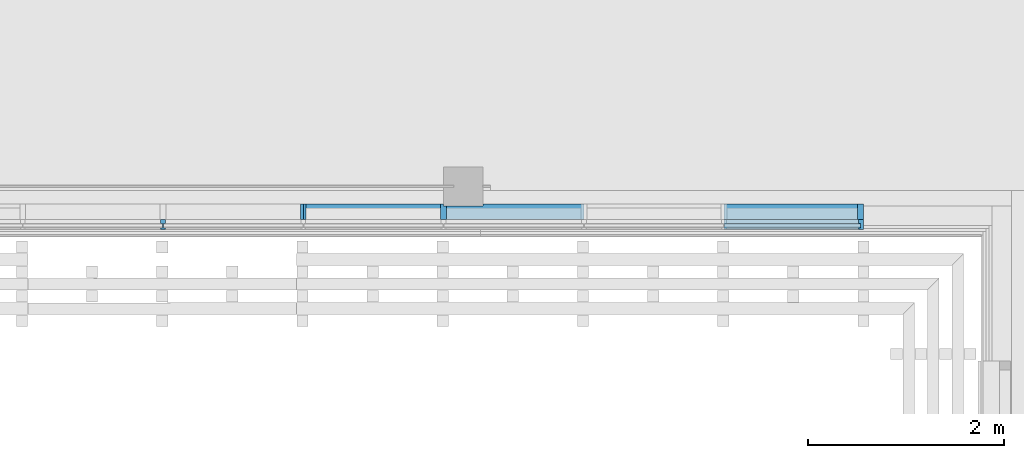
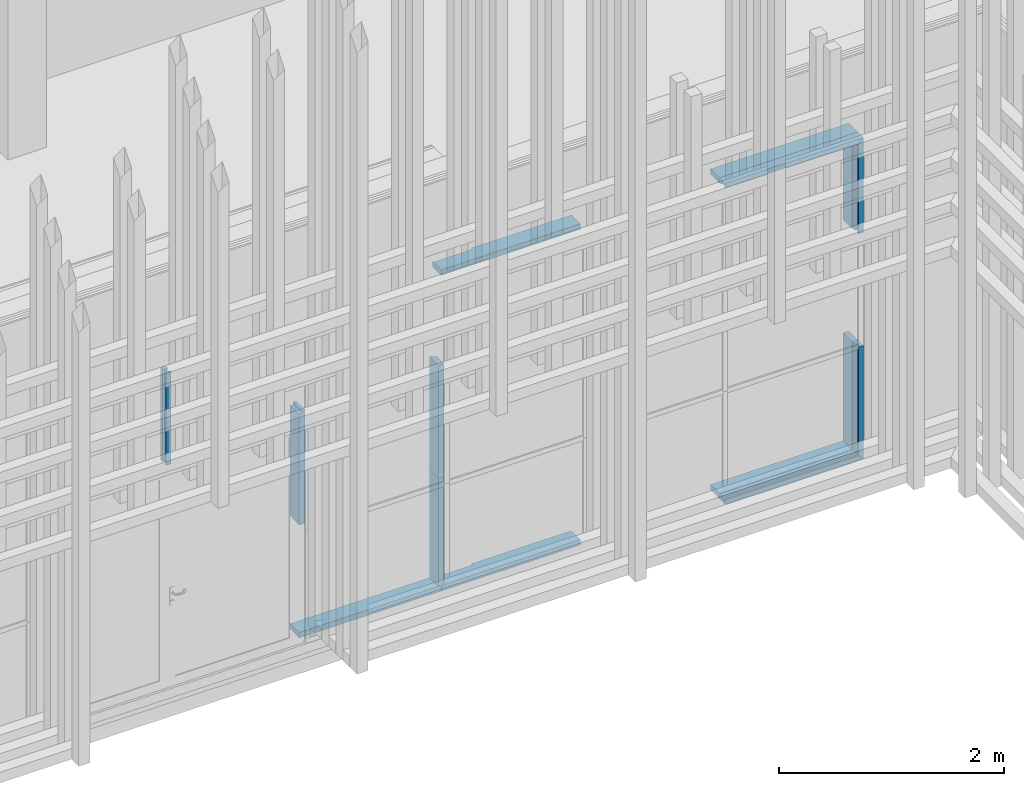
# One storey, part 80 of 260: 15 members, 2 elements without a shape of their own.
"""IFC2X3 building model written with IfcOpenShell, lengths in millimetres."""

from ifc_helpers import new_model, entity, si_unit, converted_unit, derived_unit, money_unit, direction, frame, origin_with_axes, place, context, subcontext, project, spatial, faceted_brep, material, type_object, element, aggregate, save


model = new_model("IFC2X3")

# Units and contexts
model_context = context("Model", 3, precision=0.01, world=origin_with_axes(), true_north=direction((0.0, 1.0)))
body_context = subcontext(model_context, "Body", "Model", "MODEL_VIEW")
ifc_project = project(units=[si_unit("LENGTHUNIT", "METRE", prefix="MILLI"), si_unit("AREAUNIT", "SQUARE_METRE"), si_unit("VOLUMEUNIT", "CUBIC_METRE"), converted_unit("PLANEANGLEUNIT", "DEGREE", entity("IfcPlaneAngleMeasure", 0.0174532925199), si_unit("PLANEANGLEUNIT", "RADIAN"), dimensions=[0, 0, 0, 0, 0, 0, 0]), money_unit("EUR"), converted_unit("TIMEUNIT", "Year", entity("IfcTimeMeasure", 31556926.0), si_unit("TIMEUNIT", "SECOND"), dimensions=[0, 0, 1, 0, 0, 0, 0]), si_unit("MASSUNIT", "GRAM", prefix="KILO"), si_unit("THERMODYNAMICTEMPERATUREUNIT", "DEGREE_CELSIUS"), si_unit("LUMINOUSINTENSITYUNIT", "LUMEN"), si_unit("ENERGYUNIT", "JOULE", prefix="MEGA"), derived_unit("THERMALCONDUCTANCEUNIT", [(si_unit("POWERUNIT", "WATT"), 1), (si_unit("LENGTHUNIT", "METRE"), -1), (si_unit("THERMODYNAMICTEMPERATUREUNIT", "KELVIN"), -1)]), derived_unit("SPECIFICHEATCAPACITYUNIT", [(si_unit("ENERGYUNIT", "JOULE"), 1), (si_unit("MASSUNIT", "GRAM", prefix="KILO"), -1), (si_unit("THERMODYNAMICTEMPERATUREUNIT", "KELVIN"), -1)]), derived_unit("MASSDENSITYUNIT", [(si_unit("MASSUNIT", "GRAM", prefix="KILO"), 1), (si_unit("VOLUMEUNIT", "CUBIC_METRE"), -1)])], contexts=[model_context])

# Site, building, storey
site_placement = place(None, origin_with_axes())
site = spatial("IfcSite", under=ifc_project, at=site_placement, Name="Kolde pst 67a", CompositionType="ELEMENT")
building_placement = place(site_placement, origin_with_axes())
building = spatial("IfcBuilding", under=site, at=building_placement, Name="Riigigümnaasium", CompositionType="ELEMENT")
storey_placement = place(building_placement, origin_with_axes())
storey = spatial("IfcBuildingStorey", under=building, at=storey_placement, Name="1. korrus", CompositionType="ELEMENT", Elevation=0.0)

# Curtain wall, members
curtain_wall_type = type_object("IfcCurtainWallType", Name="Curtain Wall Type", PredefinedType="NOTDEFINED")
curtain_wall_1_placement = place(storey_placement, frame((20393.1746439, 47839.7660528, -0.000116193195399), z_axis=(0.0, 0.0, 1.0), x_axis=(1.0, 0.0, 0.0)))
curtain_wall_1 = element("IfcCurtainWall", 1, at=curtain_wall_1_placement, inside=storey, type_object=curtain_wall_type, Name="KLAASFASSAAD")
ifc_material_1 = material(Name="_METALL - alumiinium")
member_type_1 = type_object("IfcMemberType", Name="Boundary Frame 50 x 100", PredefinedType="MEMBER")
member_1_placement = place(curtain_wall_1_placement, frame((2135.44646826, 0.0, 0.0), z_axis=(-1.0, 0.0, 0.0), x_axis=(0.0, 0.0, 1.0)))
member_1 = element("IfcMember", 2, at=member_1_placement, type_object=member_type_1, material=ifc_material_1, Name="RF RAAM SERV-701", ObjectType="MEMBER", context=body_context, shape_type="Brep", body=[
    faceted_brep([(30.0, 24.0, 1420.44646826), (50.0, 24.0, 1420.44646826), (50.0, 60.0, 1420.44646826), (0.0, 60.0, 1420.44646826), (0.0, -40.0, 1420.44646826), (50.0, -40.0, 1420.44646826), (50.0, -24.0, 1420.44646826), (30.0, -24.0, 1420.44646826), (30.0, 24.0, 30.0), (50.0, 24.0, 50.0), (50.0, 60.0, 50.0), (0.0, 60.0, 0.0), (0.0, -40.0, 0.0), (50.0, -40.0, 50.0), (50.0, -24.0, 50.0), (30.0, -24.0, 30.0)], [[[0, 1, 2, 3, 4, 5, 6, 7]], [[0, 8, 9, 1]], [[9, 10, 2, 1]], [[2, 10, 11, 3]], [[3, 11, 12, 4]], [[4, 12, 13, 5]], [[6, 5, 13, 14]], [[14, 15, 7, 6]], [[7, 15, 8, 0]], [[8, 15, 14, 13, 12, 11, 10, 9]]]),
])
member_2_placement = place(curtain_wall_1_placement, frame((2135.44646826, 0.0, 1230.00011619), z_axis=(0.0, 0.0, -1.0), x_axis=(-1.0, 0.0, 0.0)))
member_2 = element("IfcMember", 3, at=member_2_placement, type_object=member_type_1, material=ifc_material_1, Name="RF RAAM SERV-722", ObjectType="MEMBER", context=body_context, shape_type="Brep", body=[
    faceted_brep([(30.0, 24.0, 1200.00011619), (50.0, 24.0, 1180.00011619), (50.0, 60.0, 1180.00011619), (0.0, 60.0, 1230.00011619), (0.0, -40.0, 1230.00011619), (50.0, -40.0, 1180.00011619), (50.0, -24.0, 1180.00011619), (30.0, -24.0, 1200.00011619), (30.0, 24.0, 0.0), (50.0, 24.0, 0.0), (50.0, 60.0, 0.0), (0.0, 60.0, 0.0), (0.0, -40.0, 0.0), (50.0, -40.0, 0.0), (50.0, -24.0, 0.0), (30.0, -24.0, 0.0)], [[[0, 1, 2, 3, 4, 5, 6, 7]], [[0, 8, 9, 1]], [[9, 10, 2, 1]], [[10, 11, 3, 2]], [[11, 12, 4, 3]], [[12, 13, 5, 4]], [[6, 5, 13, 14]], [[14, 15, 7, 6]], [[7, 15, 8, 0]], [[8, 15, 14, 13, 12, 11, 10, 9]]]),
])
member_3_placement = place(curtain_wall_1_placement, frame((2135.44655807, 0.0, 3490.00014349), z_axis=(-8.71956223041e-08, 0.0, -1.0), x_axis=(-1.0, 0.0, 8.71956223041e-08)))
member_3 = element("IfcMember", 4, at=member_3_placement, type_object=member_type_1, material=ifc_material_1, Name="RF RAAM SERV-720", ObjectType="MEMBER", context=body_context, shape_type="Brep", body=[
    faceted_brep([(29.9999101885, 24.0, 1030.00003209), (49.9999101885, 24.0, 1030.00003384), (49.9999101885, 60.0, 1030.00003384), (-8.98114933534e-05, 60.0, 1030.00002948), (-8.98114933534e-05, -40.0, 1030.00002948), (49.9999101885, -40.0, 1030.00003384), (49.9999101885, -24.0, 1030.00003384), (29.9999101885, -24.0, 1030.00003209), (29.9999973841, 24.0, 30.0000052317), (49.9999956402, 24.0, 50.0000087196), (49.9999956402, 60.0, 50.0000087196), (0.0, 60.0, 0.0), (0.0, -40.0, 0.0), (49.9999956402, -40.0, 50.0000087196), (49.9999956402, -24.0, 50.0000087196), (29.9999973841, -24.0, 30.0000052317)], [[[0, 1, 2, 3, 4, 5, 6, 7]], [[0, 8, 9, 1]], [[9, 10, 2, 1]], [[2, 10, 11, 3]], [[3, 11, 12, 4]], [[4, 12, 13, 5]], [[6, 5, 13, 14]], [[14, 15, 7, 6]], [[7, 15, 8, 0]], [[8, 15, 14, 13, 12, 11, 10, 9]]]),
])
member_4_placement = place(curtain_wall_1_placement, frame((715.0, 0.0, 3490.00014349), z_axis=(1.0, 0.0, 0.0), x_axis=(0.0, 0.0, -1.0)))
member_4 = element("IfcMember", 5, at=member_4_placement, type_object=member_type_1, material=ifc_material_1, Name="RF RAAM SERV-719", ObjectType="MEMBER", context=body_context, shape_type="Brep", body=[
    faceted_brep([(30.0, 24.0, 1390.44655545), (50.0, 24.0, 1370.44655371), (50.0, 60.0, 1370.44655371), (0.0, 60.0, 1420.44655807), (0.0, -40.0, 1420.44655807), (50.0, -40.0, 1370.44655371), (50.0, -24.0, 1370.44655371), (30.0, -24.0, 1390.44655545), (30.0, 24.0, -1.18322063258e-06), (50.0, 24.0, -1.18322063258e-06), (50.0, 60.0, -1.18322063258e-06), (0.0, 60.0, -1.18322063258e-06), (0.0, -40.0, -1.18322063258e-06), (50.0, -40.0, -1.18322063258e-06), (50.0, -24.0, -1.18322063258e-06), (30.0, -24.0, -1.18322063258e-06)], [[[0, 1, 2, 3, 4, 5, 6, 7]], [[0, 8, 9, 1]], [[9, 10, 2, 1]], [[10, 11, 3, 2]], [[11, 12, 4, 3]], [[12, 13, 5, 4]], [[6, 5, 13, 14]], [[14, 15, 7, 6]], [[7, 15, 8, 0]], [[8, 15, 14, 13, 12, 11, 10, 9]]]),
])
member_type_2 = type_object("IfcMemberType", Name="Mullion Frame 50 x 100", PredefinedType="MEMBER")
member_5_placement = place(curtain_wall_1_placement, frame((-5005.0, 0.0, 2460.00011619), z_axis=(0.0, 0.0, 1.0), x_axis=(1.0, 0.0, 0.0)))
member_5 = element("IfcMember", 6, at=member_5_placement, type_object=member_type_2, material=ifc_material_1, Name="RF RAAM VERT-474", ObjectType="MEMBER", context=body_context, shape_type="Brep", body=[
    faceted_brep([(-5.0, 24.0, 980.000094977), (-5.0, -24.0, 980.000094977), (-25.0, -24.0, 980.000094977), (-25.0, -40.0, 980.000094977), (25.0, -40.0, 980.000094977), (25.0, -24.0, 980.000094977), (5.0, -24.0, 980.000094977), (5.0, 24.0, 980.000094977), (25.0, 24.0, 980.000094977), (25.0, 60.0, 980.000094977), (-25.0, 60.0, 980.000094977), (-25.0, 24.0, 980.000094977), (-5.0, 24.0, -25.0), (-5.0, -24.0, -25.0), (-25.0, -24.0, -25.0), (-25.0, -40.0, -25.0), (25.0, -40.0, -25.0), (25.0, -24.0, -25.0), (5.0, -24.0, -25.0), (5.0, 24.0, -25.0), (25.0, 24.0, -25.0), (25.0, 60.0, -25.0), (-25.0, 60.0, -25.0), (-25.0, 24.0, -25.0)], [[[0, 1, 2, 3, 4, 5, 6, 7, 8, 9, 10, 11]], [[0, 12, 13, 1]], [[1, 13, 14, 2]], [[14, 15, 3, 2]], [[3, 15, 16, 4]], [[17, 5, 4, 16]], [[5, 17, 18, 6]], [[7, 6, 18, 19]], [[8, 7, 19, 20]], [[8, 20, 21, 9]], [[9, 21, 22, 10]], [[11, 10, 22, 23]], [[11, 23, 12, 0]], [[13, 12, 23, 22, 21, 20, 19, 18, 17, 16, 15, 14]]]),
])
aggregate(curtain_wall_1, [member_1, member_2, member_3, member_4, member_5])

curtain_wall_2_placement = place(storey_placement, frame((20393.1747334, 47899.7660528, -0.000116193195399), z_axis=(0.0, 0.0, 1.0), x_axis=(1.0, 0.0, 0.0)))
curtain_wall_2 = element("IfcCurtainWall", 7, at=curtain_wall_2_placement, inside=storey, type_object=curtain_wall_type, Name="Klaasfassaadi puitkarkass")
ifc_material_2 = material(Name="_KANDETARIND - liimpuit vastavalt EK osale")
member_type_3 = type_object("IfcMemberType", Name="Boundary Frame 60 x 160", PredefinedType="MEMBER")
member_6_placement = place(curtain_wall_2_placement, frame((-2145.0, 0.0, 0.0), z_axis=(-1.0, 0.0, 0.0), x_axis=(0.0, 0.0, 1.0)))
member_6 = element("IfcMember", 8, at=member_6_placement, type_object=member_type_3, material=ifc_material_2, Name="RF RAAM SERV-617", ObjectType="MEMBER", context=body_context, shape_type="Brep", body=[
    faceted_brep([(60.0, 160.0, 0.0), (60.0, 160.0, 1460.0), (60.0, 0.0, 1460.0), (60.0, 0.0, 0.0), (0.0, 160.0, 0.0), (0.0, 160.0, 1460.0), (0.0, 0.0, 1460.0), (0.0, 0.0, 0.0)], [[[0, 1, 2, 3]], [[4, 5, 1, 0]], [[1, 5, 6, 2]], [[3, 2, 6, 7]], [[0, 3, 7, 4]], [[7, 6, 5, 4]]]),
])
member_7_placement = place(curtain_wall_2_placement, frame((2135.44646826, 0.0, 0.0), z_axis=(-1.0, 0.0, 0.0), x_axis=(0.0, 0.0, 1.0)))
member_7 = element("IfcMember", 9, at=member_7_placement, type_object=member_type_3, material=ifc_material_2, Name="RF RAAM SERV-524", ObjectType="MEMBER", context=body_context, shape_type="Brep", body=[
    faceted_brep([(60.0, 0.0, 60.0), (60.0, 160.0, 60.0), (60.0, 160.0, 1420.44646826), (60.0, 0.0, 1420.44646826), (0.0, 0.0, 0.0), (0.0, 160.0, 0.0), (0.0, 160.0, 1420.44646826), (0.0, 0.0, 1420.44646826)], [[[0, 1, 2, 3]], [[1, 0, 4, 5]], [[1, 5, 6, 2]], [[2, 6, 7, 3]], [[4, 0, 3, 7]], [[5, 4, 7, 6]]]),
])
member_8_placement = place(curtain_wall_2_placement, frame((2135.44646826, 0.0, 1230.00011619), z_axis=(0.0, 0.0, -1.0), x_axis=(-1.0, 0.0, 0.0)))
member_8 = element("IfcMember", 10, at=member_8_placement, type_object=member_type_3, material=ifc_material_2, Name="RF RAAM SERV-635", ObjectType="MEMBER", context=body_context, shape_type="Brep", body=[
    faceted_brep([(60.0, 160.0, 0.0), (60.0, 160.0, 1170.00011619), (60.0, 0.0, 1170.00011619), (60.0, 0.0, 0.0), (0.0, 160.0, 0.0), (0.0, 160.0, 1230.00011619), (0.0, 0.0, 1230.00011619), (0.0, 0.0, 0.0)], [[[0, 1, 2, 3]], [[4, 5, 1, 0]], [[1, 5, 6, 2]], [[3, 2, 6, 7]], [[0, 3, 7, 4]], [[7, 6, 5, 4]]]),
])
member_9_placement = place(curtain_wall_2_placement, frame((-715.0, 0.0, 0.0), z_axis=(-1.0, 0.0, 0.0), x_axis=(0.0, 0.0, 1.0)))
member_9 = element("IfcMember", 11, at=member_9_placement, type_object=member_type_3, material=ifc_material_2, Name="RF RAAM SERV-547", ObjectType="MEMBER", context=body_context, shape_type="Brep", body=[
    faceted_brep([(0.000116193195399, 160.0, 1028.17118909), (60.0, 160.0, 1028.17118909), (60.0, 160.0, 0.0), (0.0, 160.0, 0.0), (60.0, 139.983201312, 1028.17118909), (0.000116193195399, 139.983201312, 1028.17118909), (60.0, 139.983201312, 1428.17118909), (60.0, 160.0, 1428.17118909), (60.0, 160.0, 1430.0), (60.0, 0.0, 1430.0), (60.0, 0.0, 0.0), (0.0, 0.0, 0.0), (0.0, 0.0, 1430.0), (0.0, 160.0, 1430.0), (0.000116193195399, 160.0, 1428.17118909), (0.000116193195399, 139.983201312, 1428.17118909)], [[[0, 1, 2, 3]], [[4, 1, 0, 5]], [[6, 7, 8, 9, 10, 2, 1, 4]], [[3, 2, 10, 11]], [[5, 0, 3, 11, 12, 13, 14, 15]], [[6, 4, 5, 15]], [[14, 7, 6, 15]], [[7, 14, 13, 8]], [[9, 8, 13, 12]], [[11, 10, 9, 12]]]),
])
member_10_placement = place(curtain_wall_2_placement, frame((2135.44655807, 0.0, 3490.00014349), z_axis=(-8.71956223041e-08, 0.0, -1.0), x_axis=(-1.0, 0.0, 8.71956223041e-08)))
member_10 = element("IfcMember", 12, at=member_10_placement, type_object=member_type_3, material=ifc_material_2, Name="RF RAAM SERV-633", ObjectType="MEMBER", context=body_context, shape_type="Brep", body=[
    faceted_brep([(59.9999947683, 0.0, 60.0000104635), (59.9999947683, 160.0, 60.0000104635), (59.9999101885, 160.0, 1030.00003514), (59.9999101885, 0.0, 1030.00003514), (0.0, 0.0, 0.0), (0.0, 160.0, 0.0), (-8.98114933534e-05, 160.0, 1030.00002991), (-8.98114933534e-05, 0.0, 1030.00002991)], [[[0, 1, 2, 3]], [[1, 0, 4, 5]], [[1, 5, 6, 2]], [[2, 6, 7, 3]], [[4, 0, 3, 7]], [[5, 4, 7, 6]]]),
])
member_11_placement = place(curtain_wall_2_placement, frame((715.0, 0.0, 3490.00014349), z_axis=(1.0, 0.0, 0.0), x_axis=(0.0, 0.0, -1.0)))
member_11 = element("IfcMember", 13, at=member_11_placement, type_object=member_type_3, material=ifc_material_2, Name="RF RAAM SERV-632", ObjectType="MEMBER", context=body_context, shape_type="Brep", body=[
    faceted_brep([(60.0, 160.0, -1.41986689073e-06), (60.0, 160.0, 1360.44655284), (60.0, 0.0, 1360.44655284), (60.0, 0.0, -1.41986689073e-06), (0.0, 160.0, -1.41986689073e-06), (0.0, 160.0, 1420.44655807), (0.0, 0.0, 1420.44655807), (0.0, 0.0, -1.41986689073e-06)], [[[0, 1, 2, 3]], [[4, 5, 1, 0]], [[1, 5, 6, 2]], [[3, 2, 6, 7]], [[0, 3, 7, 4]], [[7, 6, 5, 4]]]),
])
member_12_placement = place(curtain_wall_2_placement, frame((-2145.0, 0.0, 3490.00021117), z_axis=(1.0, 0.0, 0.0), x_axis=(0.0, 0.0, -1.0)))
member_12 = element("IfcMember", 14, at=member_12_placement, type_object=member_type_3, material=ifc_material_2, Name="RF RAAM SERV-630", ObjectType="MEMBER", context=body_context, shape_type="Brep", body=[
    faceted_brep([(60.0, 160.0, 401.828810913), (0.0, 160.0, 401.828810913), (0.0, 160.0, 1430.0), (60.0, 160.0, 1430.0), (0.0, 139.983201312, 401.828810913), (60.0, 139.983201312, 401.828810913), (0.0, 139.983201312, 1.82881091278), (0.0, 160.0, 1.82881091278), (0.0, 160.0, 0.0), (0.0, 0.0, 0.0), (0.0, 0.0, 1430.0), (60.0, 0.0, 1430.0), (60.0, 0.0, 0.0), (60.0, 160.0, 0.0), (60.0, 160.0, 1.82881091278), (60.0, 139.983201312, 1.82881091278)], [[[0, 1, 2, 3]], [[4, 1, 0, 5]], [[6, 7, 8, 9, 10, 2, 1, 4]], [[11, 3, 2, 10]], [[5, 0, 3, 11, 12, 13, 14, 15]], [[6, 4, 5, 15]], [[14, 7, 6, 15]], [[7, 14, 13, 8]], [[8, 13, 12, 9]], [[9, 12, 11, 10]]]),
])
member_type_4 = type_object("IfcMemberType", Name="Mullion Frame 60 x 160", PredefinedType="MEMBER")
member_13_placement = place(curtain_wall_2_placement, frame((-2145.0, 0.0, 0.0), z_axis=(0.0, 0.0, 1.0), x_axis=(1.0, 0.0, 0.0)))
member_13 = element("IfcMember", 15, at=member_13_placement, type_object=member_type_4, material=ifc_material_2, Name="RF RAAM VERT-347", ObjectType="MEMBER", context=body_context, shape_type="Brep", body=[
    faceted_brep([(30.0, 139.983201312, 60.0), (30.0, 139.983201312, 1230.00011619), (30.0, 0.0, 1230.00011619), (30.0, 0.0, 60.0), (1.82881091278, 139.983201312, 1230.00011619), (1.82881091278, 139.983201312, 60.0), (1.82881091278, 160.0, 1230.00011619), (-30.0, 160.0, 1230.00011619), (-30.0, 0.0, 1230.00011619), (-30.0, 0.0, 60.0), (-30.0, 160.0, 60.0), (1.82881091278, 160.0, 60.0)], [[[0, 1, 2, 3]], [[4, 1, 0, 5]], [[4, 6, 7, 8, 2, 1]], [[8, 9, 3, 2]], [[5, 0, 3, 9, 10, 11]], [[11, 6, 4, 5]], [[6, 11, 10, 7]], [[7, 10, 9, 8]]]),
])
member_14_placement = place(curtain_wall_2_placement, frame((-2145.0, 0.0, 1230.00011619), z_axis=(0.0, 0.0, 1.0), x_axis=(1.0, 0.0, 0.0)))
member_14 = element("IfcMember", 16, at=member_14_placement, type_object=member_type_4, material=ifc_material_2, Name="RF RAAM VERT-355", ObjectType="MEMBER", context=body_context, shape_type="Brep", body=[
    faceted_brep([(30.0, 139.983201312, 0.0), (30.0, 139.983201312, 1230.0), (30.0, 0.0, 1230.0), (30.0, 0.0, 0.0), (1.82881091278, 139.983201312, 1230.0), (1.82881091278, 139.983201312, 0.0), (1.82881091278, 160.0, 1230.0), (-30.0, 160.0, 1230.0), (-30.0, 0.0, 1230.0), (-30.0, 0.0, 0.0), (-30.0, 160.0, 0.0), (1.82881091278, 160.0, 0.0)], [[[0, 1, 2, 3]], [[4, 1, 0, 5]], [[4, 6, 7, 8, 2, 1]], [[9, 3, 2, 8]], [[5, 0, 3, 9, 10, 11]], [[11, 6, 4, 5]], [[6, 11, 10, 7]], [[10, 9, 8, 7]]]),
])
member_15_placement = place(curtain_wall_2_placement, frame((-3575.0, 0.0, 1230.00011619), z_axis=(0.0, 0.0, 1.0), x_axis=(1.0, 0.0, 0.0)))
member_15 = element("IfcMember", 17, at=member_15_placement, type_object=member_type_4, material=ifc_material_2, Name="RF RAAM VERT-356", ObjectType="MEMBER", context=body_context, shape_type="Brep", body=[
    faceted_brep([(-30.0, 0.0, 1200.0), (-30.0, 0.0, 0.0), (30.0, 0.0, 0.0), (30.0, 0.0, 1230.0), (0.0, 0.0, 1230.0), (0.0, 0.0, 1200.0), (-30.0, 160.0, 1200.0), (-30.0, 160.0, 0.0), (30.0, 160.0, 0.0), (30.0, 160.0, 1230.0), (0.0, 160.0, 1230.0), (0.0, 160.0, 1200.0)], [[[0, 1, 2, 3, 4, 5]], [[6, 7, 1, 0]], [[7, 8, 2, 1]], [[2, 8, 9, 3]], [[4, 3, 9, 10]], [[10, 11, 5, 4]], [[5, 11, 6, 0]], [[11, 10, 9, 8, 7, 6]]]),
])
aggregate(curtain_wall_2, [member_6, member_13, member_14, member_15, member_7, member_8, member_9, member_10, member_11, member_12])

save(model, "model.ifc")
